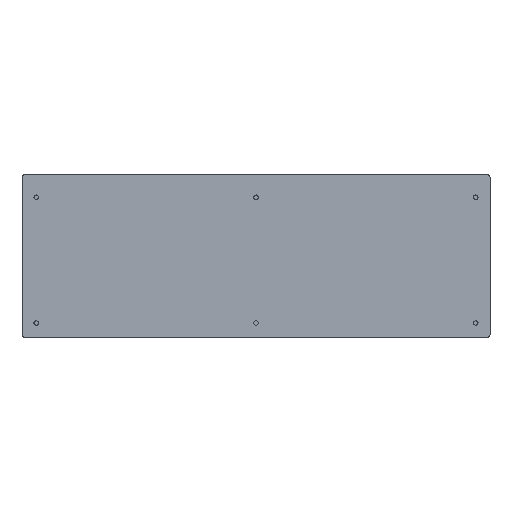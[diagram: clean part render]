
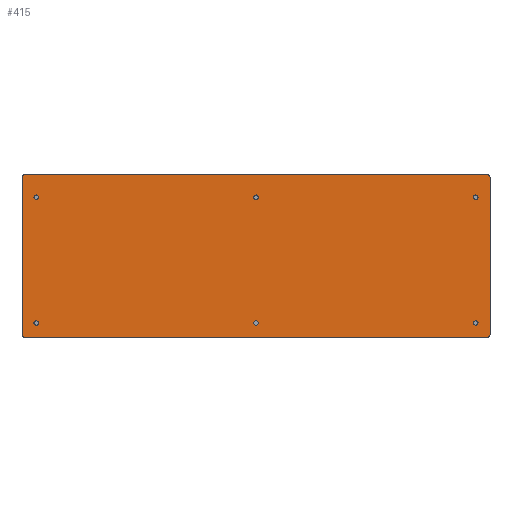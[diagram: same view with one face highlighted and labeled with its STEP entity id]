
A CAD part, top view. The second image highlights one B-rep face of the part: STEP entity #415.
In plain terms, the highlighted planar face has unit normal (0, 0, 1).
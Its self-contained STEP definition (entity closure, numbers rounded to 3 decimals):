
#62=FACE_BOUND('',#117,.T.);
#63=FACE_BOUND('',#118,.T.);
#64=FACE_BOUND('',#119,.T.);
#65=FACE_BOUND('',#120,.T.);
#66=FACE_BOUND('',#121,.T.);
#67=FACE_BOUND('',#122,.T.);
#73=PLANE('',#505);
#91=FACE_OUTER_BOUND('',#116,.T.);
#116=EDGE_LOOP('',(#363,#364,#365,#366,#367,#368,#369,#370));
#117=EDGE_LOOP('',(#371,#372));
#118=EDGE_LOOP('',(#373,#374));
#119=EDGE_LOOP('',(#375,#376));
#120=EDGE_LOOP('',(#377,#378));
#121=EDGE_LOOP('',(#379,#380));
#122=EDGE_LOOP('',(#381,#382));
#136=LINE('',#723,#159);
#142=LINE('',#743,#165);
#145=LINE('',#751,#168);
#147=LINE('',#757,#170);
#159=VECTOR('',#590,10.);
#165=VECTOR('',#610,10.);
#168=VECTOR('',#619,10.);
#170=VECTOR('',#627,10.);
#172=CIRCLE('',#465,1.5);
#173=CIRCLE('',#466,1.5);
#175=CIRCLE('',#469,1.5);
#176=CIRCLE('',#470,1.5);
#178=CIRCLE('',#473,1.5);
#179=CIRCLE('',#474,1.5);
#181=CIRCLE('',#477,1.5);
#182=CIRCLE('',#478,1.5);
#184=CIRCLE('',#481,1.5);
#185=CIRCLE('',#482,1.5);
#187=CIRCLE('',#485,1.5);
#188=CIRCLE('',#486,1.5);
#190=CIRCLE('',#489,1.5);
#195=CIRCLE('',#497,1.5);
#196=CIRCLE('',#500,1.5);
#197=CIRCLE('',#503,1.5);
#200=VERTEX_POINT('',#662);
#201=VERTEX_POINT('',#663);
#203=VERTEX_POINT('',#670);
#204=VERTEX_POINT('',#671);
#206=VERTEX_POINT('',#678);
#207=VERTEX_POINT('',#679);
#209=VERTEX_POINT('',#686);
#210=VERTEX_POINT('',#687);
#212=VERTEX_POINT('',#694);
#213=VERTEX_POINT('',#695);
#215=VERTEX_POINT('',#702);
#216=VERTEX_POINT('',#703);
#218=VERTEX_POINT('',#710);
#219=VERTEX_POINT('',#711);
#223=VERTEX_POINT('',#721);
#229=VERTEX_POINT('',#737);
#230=VERTEX_POINT('',#741);
#231=VERTEX_POINT('',#745);
#232=VERTEX_POINT('',#749);
#233=VERTEX_POINT('',#753);
#236=EDGE_CURVE('',#200,#201,#172,.T.);
#237=EDGE_CURVE('',#201,#200,#173,.T.);
#240=EDGE_CURVE('',#203,#204,#175,.T.);
#241=EDGE_CURVE('',#204,#203,#176,.T.);
#244=EDGE_CURVE('',#206,#207,#178,.T.);
#245=EDGE_CURVE('',#207,#206,#179,.T.);
#248=EDGE_CURVE('',#209,#210,#181,.T.);
#249=EDGE_CURVE('',#210,#209,#182,.T.);
#252=EDGE_CURVE('',#212,#213,#184,.T.);
#253=EDGE_CURVE('',#213,#212,#185,.T.);
#256=EDGE_CURVE('',#215,#216,#187,.T.);
#257=EDGE_CURVE('',#216,#215,#188,.T.);
#260=EDGE_CURVE('',#218,#219,#190,.T.);
#266=EDGE_CURVE('',#218,#223,#136,.T.);
#273=EDGE_CURVE('',#229,#223,#195,.T.);
#276=EDGE_CURVE('',#229,#230,#142,.T.);
#277=EDGE_CURVE('',#231,#230,#196,.T.);
#280=EDGE_CURVE('',#231,#232,#145,.T.);
#281=EDGE_CURVE('',#233,#232,#197,.T.);
#283=EDGE_CURVE('',#233,#219,#147,.T.);
#363=ORIENTED_EDGE('',*,*,#260,.F.);
#364=ORIENTED_EDGE('',*,*,#266,.T.);
#365=ORIENTED_EDGE('',*,*,#273,.F.);
#366=ORIENTED_EDGE('',*,*,#276,.T.);
#367=ORIENTED_EDGE('',*,*,#277,.F.);
#368=ORIENTED_EDGE('',*,*,#280,.T.);
#369=ORIENTED_EDGE('',*,*,#281,.F.);
#370=ORIENTED_EDGE('',*,*,#283,.T.);
#371=ORIENTED_EDGE('',*,*,#236,.T.);
#372=ORIENTED_EDGE('',*,*,#237,.T.);
#373=ORIENTED_EDGE('',*,*,#240,.T.);
#374=ORIENTED_EDGE('',*,*,#241,.T.);
#375=ORIENTED_EDGE('',*,*,#244,.T.);
#376=ORIENTED_EDGE('',*,*,#245,.T.);
#377=ORIENTED_EDGE('',*,*,#248,.T.);
#378=ORIENTED_EDGE('',*,*,#249,.T.);
#379=ORIENTED_EDGE('',*,*,#252,.T.);
#380=ORIENTED_EDGE('',*,*,#253,.T.);
#381=ORIENTED_EDGE('',*,*,#256,.T.);
#382=ORIENTED_EDGE('',*,*,#257,.T.);
#415=ADVANCED_FACE('',(#91,#62,#63,#64,#65,#66,#67),#73,.T.);
#465=AXIS2_PLACEMENT_3D('',#664,#526,#527);
#466=AXIS2_PLACEMENT_3D('',#665,#528,#529);
#469=AXIS2_PLACEMENT_3D('',#672,#535,#536);
#470=AXIS2_PLACEMENT_3D('',#673,#537,#538);
#473=AXIS2_PLACEMENT_3D('',#680,#544,#545);
#474=AXIS2_PLACEMENT_3D('',#681,#546,#547);
#477=AXIS2_PLACEMENT_3D('',#688,#553,#554);
#478=AXIS2_PLACEMENT_3D('',#689,#555,#556);
#481=AXIS2_PLACEMENT_3D('',#696,#562,#563);
#482=AXIS2_PLACEMENT_3D('',#697,#564,#565);
#485=AXIS2_PLACEMENT_3D('',#704,#571,#572);
#486=AXIS2_PLACEMENT_3D('',#705,#573,#574);
#489=AXIS2_PLACEMENT_3D('',#712,#580,#581);
#497=AXIS2_PLACEMENT_3D('',#738,#604,#605);
#500=AXIS2_PLACEMENT_3D('',#746,#613,#614);
#503=AXIS2_PLACEMENT_3D('',#754,#622,#623);
#505=AXIS2_PLACEMENT_3D('',#758,#628,#629);
#526=DIRECTION('center_axis',(0.,0.,-1.));
#527=DIRECTION('ref_axis',(1.,0.,0.));
#528=DIRECTION('center_axis',(0.,0.,-1.));
#529=DIRECTION('ref_axis',(1.,0.,0.));
#535=DIRECTION('center_axis',(0.,0.,-1.));
#536=DIRECTION('ref_axis',(1.,0.,0.));
#537=DIRECTION('center_axis',(0.,0.,-1.));
#538=DIRECTION('ref_axis',(1.,0.,0.));
#544=DIRECTION('center_axis',(0.,0.,-1.));
#545=DIRECTION('ref_axis',(1.,0.,0.));
#546=DIRECTION('center_axis',(0.,0.,-1.));
#547=DIRECTION('ref_axis',(1.,0.,0.));
#553=DIRECTION('center_axis',(0.,0.,-1.));
#554=DIRECTION('ref_axis',(1.,0.,0.));
#555=DIRECTION('center_axis',(0.,0.,-1.));
#556=DIRECTION('ref_axis',(1.,0.,0.));
#562=DIRECTION('center_axis',(0.,0.,-1.));
#563=DIRECTION('ref_axis',(1.,0.,0.));
#564=DIRECTION('center_axis',(0.,0.,-1.));
#565=DIRECTION('ref_axis',(1.,0.,0.));
#571=DIRECTION('center_axis',(0.,0.,-1.));
#572=DIRECTION('ref_axis',(1.,0.,0.));
#573=DIRECTION('center_axis',(0.,0.,-1.));
#574=DIRECTION('ref_axis',(1.,0.,0.));
#580=DIRECTION('center_axis',(0.,0.,-1.));
#581=DIRECTION('ref_axis',(-0.707,0.707,0.));
#590=DIRECTION('',(0.,-1.,0.));
#604=DIRECTION('center_axis',(0.,0.,-1.));
#605=DIRECTION('ref_axis',(-0.707,-0.707,0.));
#610=DIRECTION('',(1.,0.,0.));
#613=DIRECTION('center_axis',(0.,0.,-1.));
#614=DIRECTION('ref_axis',(0.707,-0.707,0.));
#619=DIRECTION('',(0.,1.,0.));
#622=DIRECTION('center_axis',(0.,0.,-1.));
#623=DIRECTION('ref_axis',(0.707,0.707,0.));
#627=DIRECTION('',(-1.,0.,0.));
#628=DIRECTION('center_axis',(0.,0.,1.));
#629=DIRECTION('ref_axis',(1.,0.,0.));
#662=CARTESIAN_POINT('',(1.5,39.25,3.));
#663=CARTESIAN_POINT('',(-1.5,39.25,3.));
#664=CARTESIAN_POINT('Origin',(0.,39.25,3.));
#665=CARTESIAN_POINT('Origin',(0.,39.25,3.));
#670=CARTESIAN_POINT('',(-145.3,-44.75,3.));
#671=CARTESIAN_POINT('',(-148.3,-44.75,3.));
#672=CARTESIAN_POINT('Origin',(-146.8,-44.75,3.));
#673=CARTESIAN_POINT('Origin',(-146.8,-44.75,3.));
#678=CARTESIAN_POINT('',(148.3,-44.75,3.));
#679=CARTESIAN_POINT('',(145.3,-44.75,3.));
#680=CARTESIAN_POINT('Origin',(146.8,-44.75,3.));
#681=CARTESIAN_POINT('Origin',(146.8,-44.75,3.));
#686=CARTESIAN_POINT('',(1.5,-44.75,3.));
#687=CARTESIAN_POINT('',(-1.5,-44.75,3.));
#688=CARTESIAN_POINT('Origin',(0.,-44.75,3.));
#689=CARTESIAN_POINT('Origin',(0.,-44.75,3.));
#694=CARTESIAN_POINT('',(148.3,39.25,3.));
#695=CARTESIAN_POINT('',(145.3,39.25,3.));
#696=CARTESIAN_POINT('Origin',(146.8,39.25,3.));
#697=CARTESIAN_POINT('Origin',(146.8,39.25,3.));
#702=CARTESIAN_POINT('',(-145.3,39.25,3.));
#703=CARTESIAN_POINT('',(-148.3,39.25,3.));
#704=CARTESIAN_POINT('Origin',(-146.8,39.25,3.));
#705=CARTESIAN_POINT('Origin',(-146.8,39.25,3.));
#710=CARTESIAN_POINT('',(-156.3,52.75,3.));
#711=CARTESIAN_POINT('',(-154.8,54.25,3.));
#712=CARTESIAN_POINT('Origin',(-154.8,52.75,3.));
#721=CARTESIAN_POINT('',(-156.3,-52.75,3.));
#723=CARTESIAN_POINT('',(-156.3,54.25,3.));
#737=CARTESIAN_POINT('',(-154.8,-54.25,3.));
#738=CARTESIAN_POINT('Origin',(-154.8,-52.75,3.));
#741=CARTESIAN_POINT('',(154.8,-54.25,3.));
#743=CARTESIAN_POINT('',(-156.3,-54.25,3.));
#745=CARTESIAN_POINT('',(156.3,-52.75,3.));
#746=CARTESIAN_POINT('Origin',(154.8,-52.75,3.));
#749=CARTESIAN_POINT('',(156.3,52.75,3.));
#751=CARTESIAN_POINT('',(156.3,-54.25,3.));
#753=CARTESIAN_POINT('',(154.8,54.25,3.));
#754=CARTESIAN_POINT('Origin',(154.8,52.75,3.));
#757=CARTESIAN_POINT('',(156.3,54.25,3.));
#758=CARTESIAN_POINT('Origin',(0.,0.,
3.));
